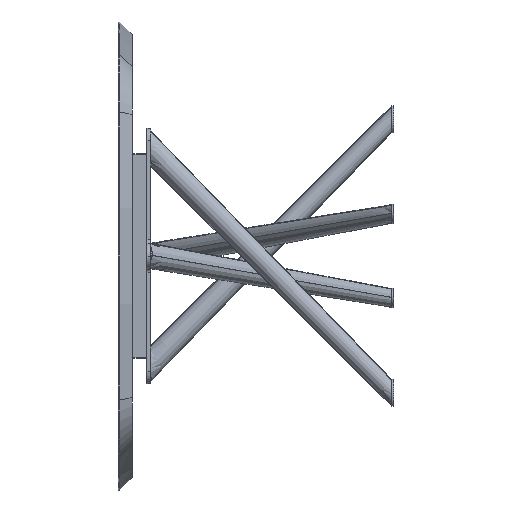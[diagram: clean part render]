
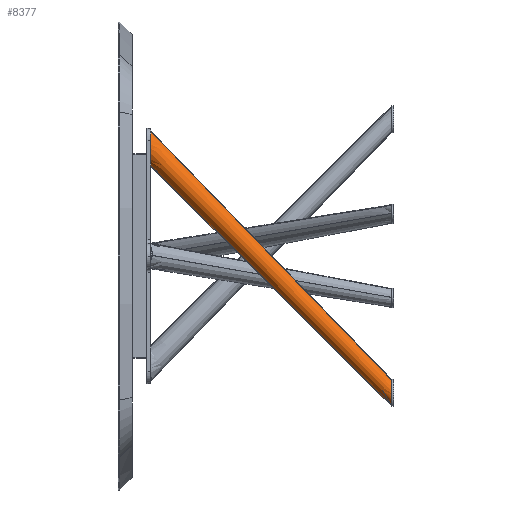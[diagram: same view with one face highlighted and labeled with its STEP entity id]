
A CAD part, left-side view. The second image highlights one B-rep face of the part: STEP entity #8377.
In plain terms, the highlighted conical face has half-angle 0.573 degrees and reference radius 25 mm.
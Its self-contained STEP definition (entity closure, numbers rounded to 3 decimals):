
#297 = CARTESIAN_POINT ( 'NONE',  ( -2.49, 660., 245.144 ) ) ;
#667 = VERTEX_POINT ( 'NONE', #297 ) ;
#673 = EDGE_CURVE ( 'NONE', #3170, #3307, #8598, .T. ) ;
#1182 = ORIENTED_EDGE ( 'NONE', *, *, #14727, .F. ) ;
#1247 = ORIENTED_EDGE ( 'NONE', *, *, #9108, .F. ) ;
#1543 = ORIENTED_EDGE ( 'NONE', *, *, #673, .T. ) ;
#1868 = EDGE_CURVE ( 'NONE', #13989, #667, #15122, .T. ) ;
#1875 = CARTESIAN_POINT ( 'NONE',  ( -14.298, 660., 336.819 ) ) ;
#2135 = FACE_OUTER_BOUND ( 'NONE', #6740, .T. ) ;
#2285 = CARTESIAN_POINT ( 'NONE',  ( -117.949, -17.433, -392.267 ) ) ;
#2607 = CARTESIAN_POINT ( 'NONE',  ( 3.462, 679.882, 314.141 ) ) ;
#3170 = VERTEX_POINT ( 'NONE', #7512 ) ;
#3252 = VERTEX_POINT ( 'NONE', #12312 ) ;
#3307 = VERTEX_POINT ( 'NONE', #5567 ) ;
#4268 = LINE ( 'NONE', #6676, #13947 ) ;
#4966 = DIRECTION ( 'NONE',  ( 0.121, 0.69, 0.713 ) ) ;
#5309 = ORIENTED_EDGE ( 'NONE', *, *, #14685, .T. ) ;
#5324 = CONICAL_SURFACE ( 'NONE', #12487, 25., 0.01 ) ;
#5567 = CARTESIAN_POINT ( 'NONE',  ( 1.693, 655.157, 338.851 ) ) ;
#6033 = DIRECTION ( 'NONE',  ( -0.121, -0.697, -0.706 ) ) ;
#6676 = CARTESIAN_POINT ( 'NONE',  ( -116.685, 0.227, -409.917 ) ) ;
#6740 = EDGE_LOOP ( 'NONE', ( #1182, #1543, #5309, #7525, #1247 ) ) ;
#6876 = DIRECTION ( 'NONE',  ( 0.051, 0.706, -0.706 ) ) ;
#7100 = CIRCLE ( 'NONE', #11295, 35. ) ;
#7195 = DIRECTION ( 'NONE',  ( -0.051, -0.706, 0.706 ) ) ;
#7266 = CARTESIAN_POINT ( 'NONE',  ( -113.065, 0., -338.343 ) ) ;
#7278 = CARTESIAN_POINT ( 'NONE',  ( -2.49, 660., 245.144 ) ) ;
#7512 = CARTESIAN_POINT ( 'NONE',  ( -113.065, 0., -338.343 ) ) ;
#7525 = ORIENTED_EDGE ( 'NONE', *, *, #1868, .T. ) ;
#8053 = DIRECTION ( 'NONE',  ( 0.122, 0.704, 0.699 ) ) ;
#8377 = ADVANCED_FACE ( 'NONE', ( #2135 ), #5324, .T. ) ;
#8440 = CARTESIAN_POINT ( 'NONE',  ( -119.212, -35.093, -374.617 ) ) ;
#8509 = CARTESIAN_POINT ( 'NONE',  ( -164.026, 0., -342.116 ) ) ;
#8598 = LINE ( 'NONE', #8440, #8886 ) ;
#8601 = CARTESIAN_POINT ( 'NONE',  ( -14.298, 660., 336.819 ) ) ;
#8886 = VECTOR ( 'NONE', #4966, 1000. ) ;
#9108 = EDGE_CURVE ( 'NONE', #3252, #667, #4268, .T. ) ;
#9365 = CARTESIAN_POINT ( 'NONE',  ( -116.725, 0., -410.142 ) ) ;
#9443 = CARTESIAN_POINT ( 'NONE',  ( -167.673, 0., -413.666 ) ) ;
#11295 = AXIS2_PLACEMENT_3D ( 'NONE', #2607, #6033, #7195 ) ;
#12160 = CARTESIAN_POINT ( 'NONE',  ( -48.275, 660., 241.977 ) ) ;
#12312 = CARTESIAN_POINT ( 'NONE',  ( -116.725, 0., -410.142 ) ) ;
#12487 = AXIS2_PLACEMENT_3D ( 'NONE', #2285, #14147, #6876 ) ;
#12852 =( BOUNDED_CURVE ( )  B_SPLINE_CURVE ( 3, ( #7266, #8509, #9443, #9365 ),
 .UNSPECIFIED., .F., .T. ) 
 B_SPLINE_CURVE_WITH_KNOTS ( ( 4, 4 ),
 ( 0.172, 3.31 ),
 .UNSPECIFIED. ) 
 CURVE ( )  GEOMETRIC_REPRESENTATION_ITEM ( )  RATIONAL_B_SPLINE_CURVE ( ( 1., 0.334, 0.334, 1. ) ) 
 REPRESENTATION_ITEM ( '' )  );
#13947 = VECTOR ( 'NONE', #8053, 1000. ) ;
#13989 = VERTEX_POINT ( 'NONE', #1875 ) ;
#14147 = DIRECTION ( 'NONE',  ( 0.121, 0.697, 0.706 ) ) ;
#14561 = CARTESIAN_POINT ( 'NONE',  ( -56.207, 660., 303.559 ) ) ;
#14685 = EDGE_CURVE ( 'NONE', #3307, #13989, #7100, .T. ) ;
#14727 = EDGE_CURVE ( 'NONE', #3170, #3252, #12852, .T. ) ;
#15122 =( BOUNDED_CURVE ( )  B_SPLINE_CURVE ( 3, ( #8601, #14561, #12160, #7278 ),
 .UNSPECIFIED., .F., .T. ) 
 B_SPLINE_CURVE_WITH_KNOTS ( ( 4, 4 ),
 ( 0.662, 3.31 ),
 .UNSPECIFIED. ) 
 CURVE ( )  GEOMETRIC_REPRESENTATION_ITEM ( )  RATIONAL_B_SPLINE_CURVE ( ( 1., 0.496, 0.496, 1. ) ) 
 REPRESENTATION_ITEM ( '' )  );
